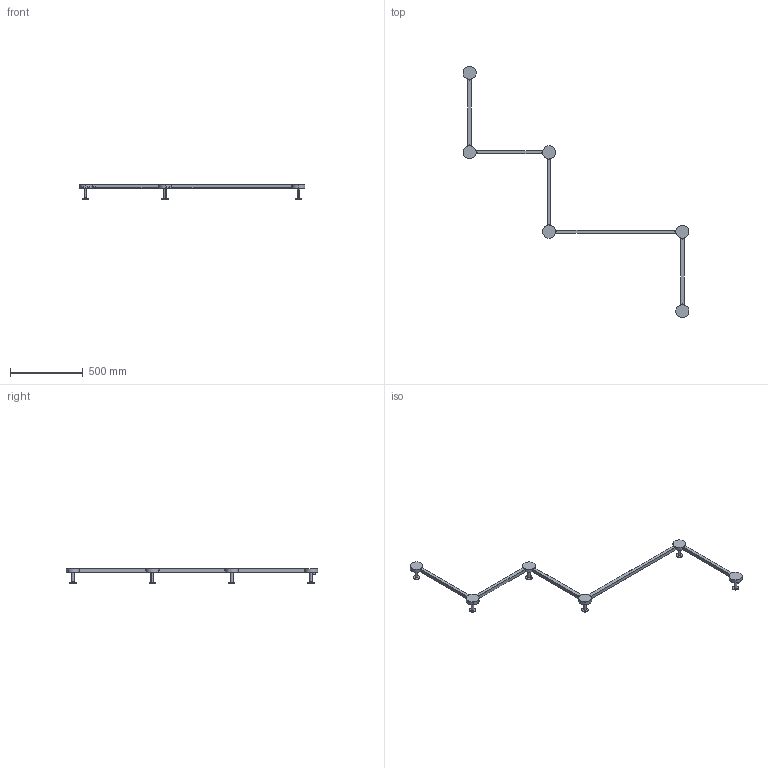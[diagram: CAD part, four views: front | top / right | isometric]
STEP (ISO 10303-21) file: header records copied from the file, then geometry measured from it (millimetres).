
FILE_DESCRIPTION (( 'STEP AP203' ), '1' );
FILE_NAME ('APPOS02XXXXXXXX-PER 3D.STEP', '2026-07-08T10:37:23', ( '' ), ( '' ), 'SwSTEP 2.0', 'SolidWorks 2026', '' );
FILE_SCHEMA (( 'CONFIG_CONTROL_DESIGN' ));
Length unit declared in the file: millimetre
Products named in the file (1): APPOS02XXXXXXXX-PER 3D
Bounding box: 1549.5 x 1724.5 x 101 mm (x, y, z)
Surface area: 440651.6 mm2 (no closed solid volume)
Topology: 0 solids, 95 shells, 243 faces, 1950 edges, 1790 vertices
Faces by surface type: plane 121, cylinder 88, cone 32, bspline 2
Entity records: 23829 total; most frequent: CARTESIAN_POINT 10377, DIRECTION 2306, ORIENTED_EDGE 2215, EDGE_CURVE 1950, VERTEX_POINT 1790, LINE 1210, VECTOR 1210, AXIS2_PLACEMENT_3D 548
